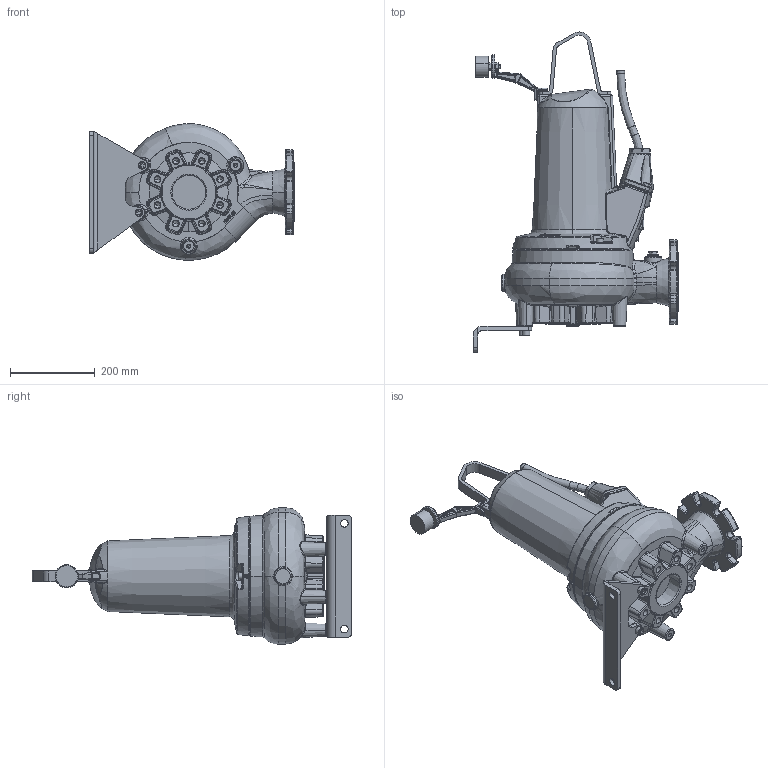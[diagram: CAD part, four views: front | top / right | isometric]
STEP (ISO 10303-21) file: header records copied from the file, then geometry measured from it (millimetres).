
FILE_DESCRIPTION (( 'STEP AP214' ), '1' );
FILE_NAME ('XFP80C-VX - Dry Horizontal.STEP', '2017-08-04T14:38:22', ( '' ), ( '' ), 'SwSTEP 2.0', 'SolidWorks 2017', '' );
FILE_SCHEMA (( 'AUTOMOTIVE_DESIGN' ));
Length unit declared in the file: inch
Products named in the file (1): XFP80C-VX - Dry Horizontal
Bounding box: 485 x 756.26 x 322.35 mm (x, y, z)
Volume: 23840350.6 mm3; surface area: 920866.3 mm2
Topology: 3 solids, 26 shells, 2592 faces, 6239 edges, 3656 vertices
Faces by surface type: bspline 1196, cylinder 676, plane 529, cone 191
Entity records: 160003 total; most frequent: CARTESIAN_POINT 74794, ORIENTED_EDGE 12164, DIRECTION 8733, EDGE_CURVE 6082, VERTEX_POINT 3656, AXIS2_PLACEMENT_3D 3396, EDGE_LOOP 2738, DIMENSIONAL_EXPONENTS 2597
